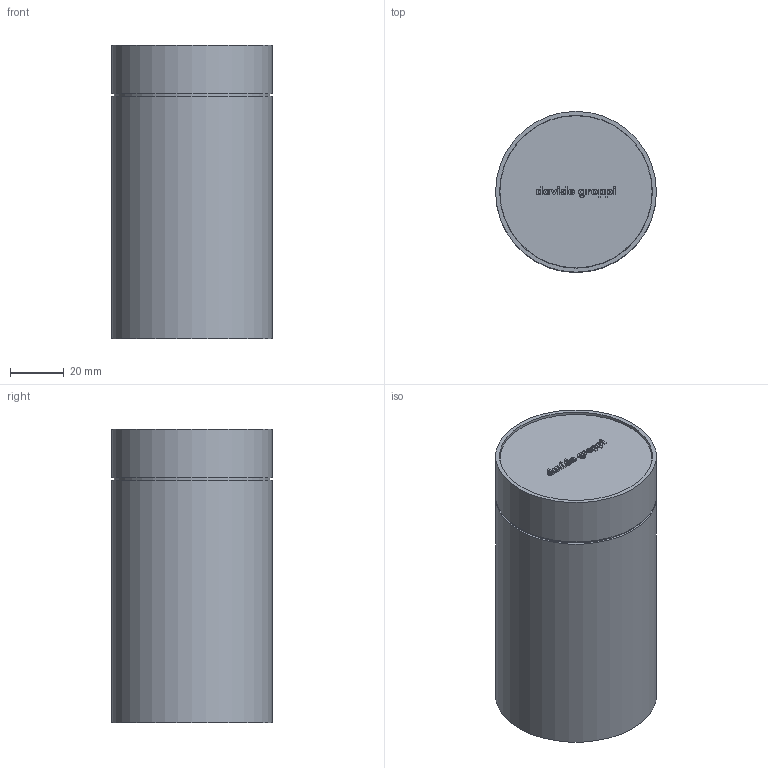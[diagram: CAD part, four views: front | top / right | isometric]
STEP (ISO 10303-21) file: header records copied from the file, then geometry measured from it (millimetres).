
FILE_DESCRIPTION(/* description */ (''),/* implementation_level */ '2;1');
FILE_NAME(/* name */ 'OHM SPOT.stp',/* time_stamp */ '2023-02-23T16:26:00+01:00',/* author */ ('n.bisotti'),/* organization */ (''),/* preprocessor_version */ 'ST-DEVELOPER v19.2',/* originating_system */ 'Autodesk Inventor 2023',/* authorisation */ '');
FILE_SCHEMA (('AUTOMOTIVE_DESIGN { 1 0 10303 214 3 1 1 }'));
Length unit declared in the file: millimetre
Products named in the file (1): Parte3
Bounding box: 60 x 60 x 109.5 mm (x, y, z)
Volume: 64728.5 mm3; surface area: 86943.4 mm2
Topology: 4 solids, 7 shells, 464 faces, 1265 edges, 839 vertices
Faces by surface type: plane 235, cylinder 121, bspline 101, torus 4, cone 2, sphere 1
Full cylindrical faces by diameter (mm): 55.5 x2, 55.835 x2, 56.8 x1, 57 x1, 57.5 x1, 57.6 x1, 58 x1, 58.433 x3, 58.434 x1, 58.5 x1, 60 x2
Entity records: 18552 total; most frequent: CARTESIAN_POINT 6881, ORIENTED_EDGE 2516, DIRECTION 1956, EDGE_CURVE 1258, VERTEX_POINT 837, LINE 712, VECTOR 712, AXIS2_PLACEMENT_3D 622
